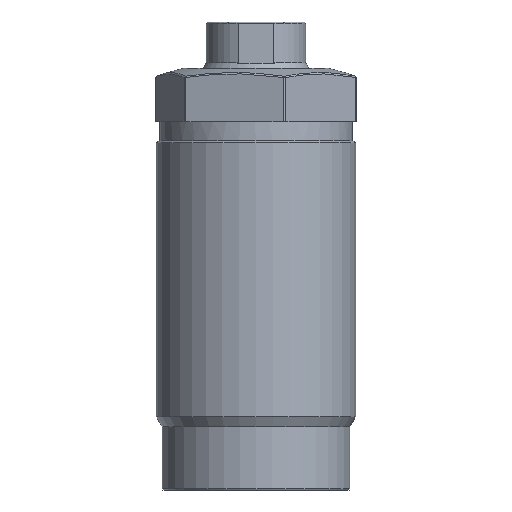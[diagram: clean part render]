
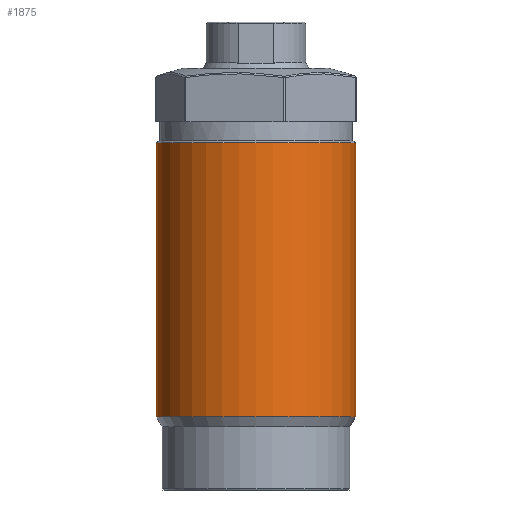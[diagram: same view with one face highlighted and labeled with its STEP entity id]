
A CAD part, front view. The second image highlights one B-rep face of the part: STEP entity #1875.
In plain terms, the highlighted cylindrical face has radius 15 mm (diameter 30 mm), a partial arc.
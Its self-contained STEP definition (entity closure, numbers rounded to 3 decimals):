
#36 = CARTESIAN_POINT ( 'NONE',  ( 15., 0., 11. ) ) ;
#134 = CYLINDRICAL_SURFACE ( 'NONE', #1808, 15. ) ;
#376 = DIRECTION ( 'NONE',  ( 0., 0., -1. ) ) ;
#553 = CARTESIAN_POINT ( 'NONE',  ( 0., 0., 11. ) ) ;
#592 = ORIENTED_EDGE ( 'NONE', *, *, #1479, .F. ) ;
#646 = CARTESIAN_POINT ( 'NONE',  ( -15., 0., 55.5 ) ) ;
#649 = CARTESIAN_POINT ( 'NONE',  ( 15., 0., 52.345 ) ) ;
#669 = DIRECTION ( 'NONE',  ( -1., 0., 0. ) ) ;
#720 = ORIENTED_EDGE ( 'NONE', *, *, #1895, .T. ) ;
#935 = ORIENTED_EDGE ( 'NONE', *, *, #1351, .T. ) ;
#968 = DIRECTION ( 'NONE',  ( 0., 0., -1. ) ) ;
#1194 = DIRECTION ( 'NONE',  ( 0., 0., -1. ) ) ;
#1201 = DIRECTION ( 'NONE',  ( 0., 0., 1. ) ) ;
#1210 = CARTESIAN_POINT ( 'NONE',  ( 0., 0., 55.5 ) ) ;
#1237 = VERTEX_POINT ( 'NONE', #3422 ) ;
#1254 = CIRCLE ( 'NONE', #2157, 15. ) ;
#1271 = VERTEX_POINT ( 'NONE', #3147 ) ;
#1351 = EDGE_CURVE ( 'NONE', #1237, #1554, #1254, .T. ) ;
#1380 = EDGE_LOOP ( 'NONE', ( #592, #1552, #720, #935 ) ) ;
#1479 = EDGE_CURVE ( 'NONE', #2763, #1554, #2283, .T. ) ;
#1531 = AXIS2_PLACEMENT_3D ( 'NONE', #3332, #376, #2726 ) ;
#1552 = ORIENTED_EDGE ( 'NONE', *, *, #2316, .T. ) ;
#1554 = VERTEX_POINT ( 'NONE', #36 ) ;
#1808 = AXIS2_PLACEMENT_3D ( 'NONE', #1210, #2277, #3051 ) ;
#1866 = VECTOR ( 'NONE', #968, 1000. ) ;
#1875 = ADVANCED_FACE ( 'NONE', ( #1979 ), #134, .T. ) ;
#1895 = EDGE_CURVE ( 'NONE', #1271, #1237, #3123, .T. ) ;
#1979 = FACE_OUTER_BOUND ( 'NONE', #1380, .T. ) ;
#2157 = AXIS2_PLACEMENT_3D ( 'NONE', #553, #1201, #669 ) ;
#2277 = DIRECTION ( 'NONE',  ( 0., 0., -1. ) ) ;
#2283 = LINE ( 'NONE', #3109, #1866 ) ;
#2316 = EDGE_CURVE ( 'NONE', #2763, #1271, #3270, .T. ) ;
#2726 = DIRECTION ( 'NONE',  ( -1., 0., 0. ) ) ;
#2763 = VERTEX_POINT ( 'NONE', #649 ) ;
#3032 = VECTOR ( 'NONE', #1194, 1000. ) ;
#3051 = DIRECTION ( 'NONE',  ( -1., 0., 0. ) ) ;
#3109 = CARTESIAN_POINT ( 'NONE',  ( 15., 0., 55.5 ) ) ;
#3123 = LINE ( 'NONE', #646, #3032 ) ;
#3147 = CARTESIAN_POINT ( 'NONE',  ( -15., 0., 52.345 ) ) ;
#3270 = CIRCLE ( 'NONE', #1531, 15. ) ;
#3332 = CARTESIAN_POINT ( 'NONE',  ( 0., 0., 52.345 ) ) ;
#3422 = CARTESIAN_POINT ( 'NONE',  ( -15., 0., 11. ) ) ;
